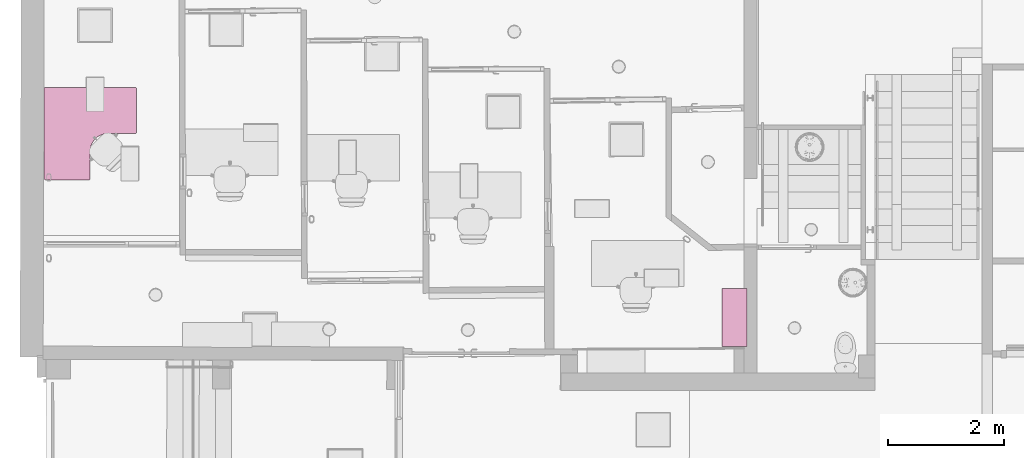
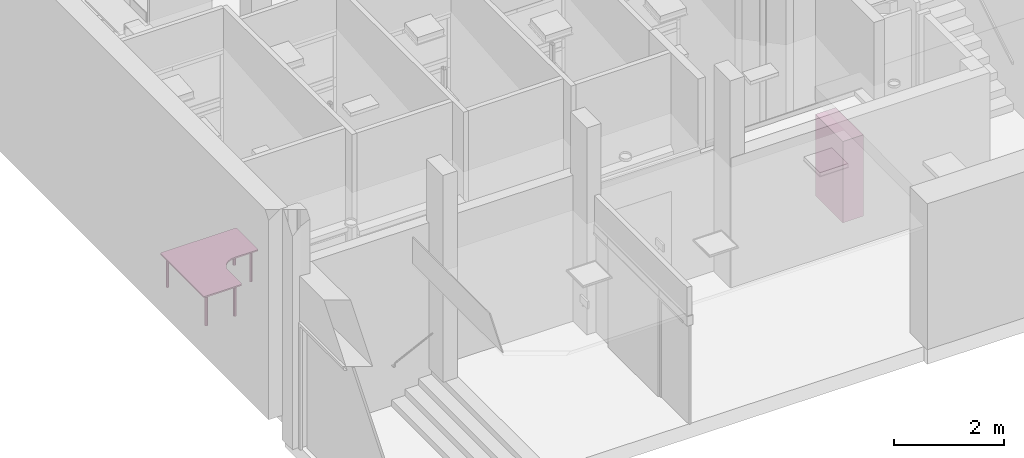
# One storey, part 85 of 128: 2 furnishings.
"""IFC2X3 building model written with IfcOpenShell, lengths in metres."""

from ifc_helpers import new_model, entity, si_unit, converted_unit, derived_unit, direction, frame, frame_2d, origin, origin_2d_with_axis, place, context, subcontext, project, spatial, polyline, circle_curve, parameter, trimmed, segment, composite_curve, rectangle, circle, outline, extrude, source, transform, mapped, material, type_object, type_shapes, element, save


model = new_model("IFC2X3")

# Units and contexts
model_context = context("Model", 3, precision=1e-05, world=origin(), true_north=direction((6.123031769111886e-17, 1.0)))
body_context = subcontext(model_context, "Body", "Model", "MODEL_VIEW")
ifc_project = project(units=[si_unit("LENGTHUNIT", "METRE"), si_unit("AREAUNIT", "SQUARE_METRE"), converted_unit("PLANEANGLEUNIT", "DEGREE", entity("IfcPlaneAngleMeasure", 0.017453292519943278), si_unit("PLANEANGLEUNIT", "RADIAN"), dimensions=[0, 0, 0, 0, 0, 0, 0]), derived_unit("THERMALTRANSMITTANCEUNIT", [(si_unit("MASSUNIT", "GRAM", prefix="KILO"), 1), (si_unit("THERMODYNAMICTEMPERATUREUNIT", "KELVIN"), -1), (si_unit("TIMEUNIT", "SECOND"), -3)])], contexts=[model_context])

# Site, building, storey
site_placement = place(None, origin())
site = spatial("IfcSite", under=ifc_project, at=site_placement, Name="Default", CompositionType="ELEMENT")
building_placement = place(site_placement, origin())
building = spatial("IfcBuilding", under=site, at=building_placement, CompositionType="ELEMENT")
storey_placement = place(building_placement, origin())
storey = spatial("IfcBuildingStorey", under=building, at=storey_placement, Name="00_RDC CAF", CompositionType="ELEMENT", Elevation=2.4982504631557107e-13)

# Furnishings
ifc_material = material(Name="ARC - Mo - Blanc")
furniture_type_1 = type_object("IfcFurnitureType", Name="Mo_Bureau_L:Mo_Bureau_L_1600x1600mm", AssemblyPlace="NOTDEFINED", material=ifc_material)
shared_shape_1 = source(origin(), body_context, "Body", "SweptSolid", [
    extrude(circle(Radius=0.030000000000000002, at=origin_2d_with_axis()), frame((0.6999999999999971, -1.4999999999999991, 0.0), z_axis=(0.0, 0.0, 1.0), x_axis=(-1.0, 0.0, 0.0)), (0.0, 0.0, 1.0), 0.6949999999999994),
    extrude(circle(Radius=0.030000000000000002, at=origin_2d_with_axis()), frame((0.09999999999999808, -1.5000000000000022, 0.0)), (0.0, 0.0, 1.0), 0.6949999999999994),
    extrude(outline(composite_curve([segment(polyline([(-0.7474997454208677, -0.8224997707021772), (0.7925002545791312, -0.8224997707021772)]), True, "CONTINUOUS"), segment(trimmed(circle_curve(frame_2d((0.7925002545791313, -0.7924997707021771), x_axis=(-1.0, 0.0)), 0.03), [parameter(89.99999999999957)], [parameter(179.99999999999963)], True, "PARAMETER"), True, "CONTINUOUS"), segment(polyline([(0.8225002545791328, -0.7924997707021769), (0.8225002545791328, 0.7474974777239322)]), True, "CONTINUOUS"), segment(trimmed(circle_curve(frame_2d((0.792497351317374, 0.7474974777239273), x_axis=(-1.0, 0.0)), 0.030002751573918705), [parameter(180.00000000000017)], [parameter(270.0)], True, "PARAMETER"), True, "CONTINUOUS"), segment(polyline([(0.7924973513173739, 0.7775002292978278), (0.05250025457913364, 0.7775002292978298)]), True, "CONTINUOUS"), segment(trimmed(circle_curve(frame_2d((0.05250025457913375, 0.7475002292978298), x_axis=(-1.0, 0.0)), 0.03), [parameter(269.9999999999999)], [parameter(0.0)], True, "PARAMETER"), True, "CONTINUOUS"), segment(polyline([(0.02250025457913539, 0.7475002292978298), (0.022500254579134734, 0.27750022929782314)]), True, "CONTINUOUS"), segment(trimmed(circle_curve(frame_2d((-0.27749974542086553, 0.27750022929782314), x_axis=(-1.0, 0.0)), 0.3000000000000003), [parameter(90.00000000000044)], [parameter(180.00000000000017)], True, "PARAMETER"), False, "CONTINUOUS"), segment(polyline([(-0.27749974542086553, -0.022499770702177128), (-0.7474997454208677, -0.022499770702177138)]), True, "CONTINUOUS"), segment(trimmed(circle_curve(frame_2d((-0.7474997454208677, -0.052499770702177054), x_axis=(-1.0, 0.0)), 0.03), [parameter(269.9999999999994)], [parameter(359.9999999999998)], True, "PARAMETER"), True, "CONTINUOUS"), segment(polyline([(-0.7774997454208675, -0.052499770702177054), (-0.7774997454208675, -0.792499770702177)]), True, "CONTINUOUS"), segment(trimmed(circle_curve(frame_2d((-0.7474997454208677, -0.792499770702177), x_axis=(-1.0, 0.0)), 0.03), [parameter(359.99999999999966)], [parameter(89.99999999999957)], True, "PARAMETER"), True, "CONTINUOUS")], self_intersect=False)), frame((0.8225002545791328, -0.8224997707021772, 0.6949999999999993), z_axis=(0.0, 0.0, 1.0), x_axis=(-1.0, 0.0, 0.0)), (0.0, 0.0, 1.0), 0.029999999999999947),
    extrude(circle(Radius=0.030000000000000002, at=frame_2d((0.0, -5.075939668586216e-17), x_axis=(1.0, 0.0))), frame((0.09999999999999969, -0.09999999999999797, 0.0)), (0.0, 0.0, 1.0), 0.6949999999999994),
    extrude(circle(Radius=0.030000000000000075, at=origin_2d_with_axis()), frame((1.4999999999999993, -0.7000000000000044, 0.0)), (0.0, 0.0, 1.0), 0.6949999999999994),
    extrude(circle(Radius=0.030000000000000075, at=frame_2d((0.0, -5.075939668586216e-17), x_axis=(1.0, 0.0))), frame((1.4999999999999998, -0.09999999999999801, 0.0)), (0.0, 0.0, 1.0), 0.6949999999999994),
])
type_shapes(furniture_type_1, [shared_shape_1])
furnishing_1_placement = place(storey_placement, frame((6.674210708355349, 134.7247106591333, 0.0)))
element("IfcFurnishingElement", 1, at=furnishing_1_placement, inside=storey, type_object=furniture_type_1, material=ifc_material, Name="Mo_Bureau_L:Mo_Bureau_L_1600x1600mm", ObjectType="Mo_Bureau_L:Mo_Bureau_L_1600x1600mm", context=body_context, shape_type="MappedRepresentation", body=[
    mapped(shared_shape_1, transform((0.0, 0.0, 0.0), scale=1.0)),
])
furniture_type_2 = type_object("IfcFurnitureType", Name="Mo_Armoire_Porte_Coulissante:Mo_Armoire_Haute_1000x430x1800", AssemblyPlace="NOTDEFINED", material=ifc_material)
shared_shape_2 = source(origin(), body_context, "Body", "SweptSolid", [
    extrude(rectangle(XDim=0.9999999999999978, YDim=0.4300000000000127, at=origin_2d_with_axis()), frame((0.04470032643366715, -0.2150000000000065, 0.0), z_axis=(0.0, 0.0, 1.0), x_axis=(-1.0, 0.0, 0.0)), (0.0, 0.0, 1.0), 1.7999999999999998),
])
type_shapes(furniture_type_2, [shared_shape_2])
furnishing_2_placement = place(storey_placement, frame((18.816521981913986, 130.79605622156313, 0.0), z_axis=(0.0, 0.0, 1.0), x_axis=(0.0, -1.0, 0.0)))
element("IfcFurnishingElement", 2, at=furnishing_2_placement, inside=storey, type_object=furniture_type_2, material=ifc_material, Name="Mo_Armoire_Porte_Coulissante:Mo_Armoire_Haute_1000x430x1800", ObjectType="Mo_Armoire_Porte_Coulissante:Mo_Armoire_Haute_1000x430x1800", context=body_context, shape_type="MappedRepresentation", body=[
    mapped(shared_shape_2, transform((0.0, 0.0, 0.0), scale=1.0)),
])

save(model, "model.ifc")
